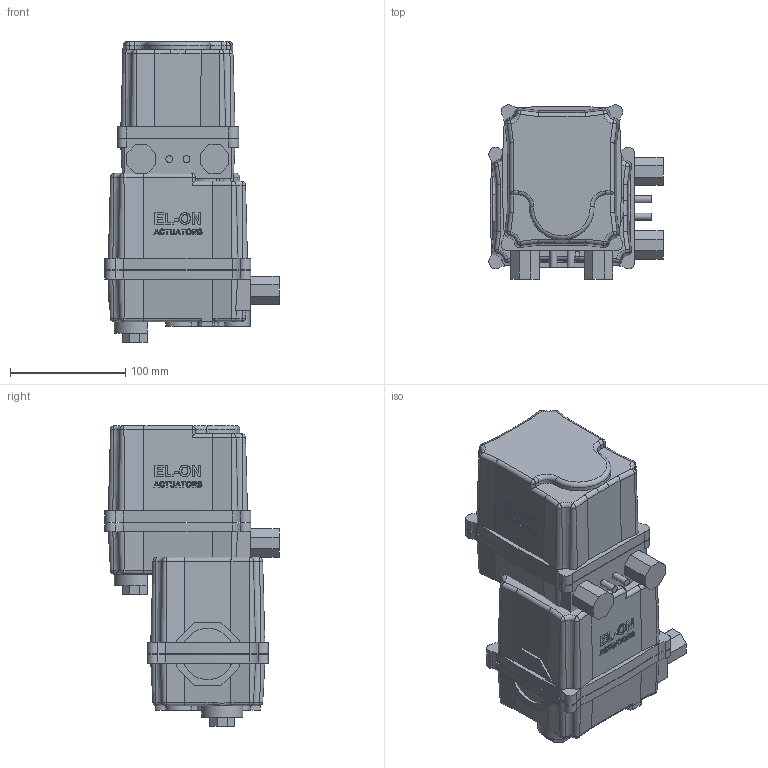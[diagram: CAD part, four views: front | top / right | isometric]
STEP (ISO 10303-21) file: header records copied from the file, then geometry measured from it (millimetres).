
FILE_DESCRIPTION( ( 'Unknown' ), '1' );
FILE_NAME( 'J:/Muud/ROOTSI BPS 3D vidinad/Kuulkraanid/Roostevaba kuulkraanid/Ball valve BPS 2420/Ball valve with electric actuator BPS/STEP formaat/BPS 2420040E ball valve DN40.stp', 'Unknown', ( 'Unknown' ), ( 'Unknown' ), 'PSStep 10.1', 'Unknown', ' ' );
FILE_SCHEMA( ( 'AUTOMOTIVE_DESIGN { 1 0 10303 214 1 1 1 1 }' ) );
Length unit declared in the file: millimetre
Products named in the file (4): Assem1; BPS 2420040 ball valve DN40; BPS 8005058 electric actuator DN40-100
Bounding box: 151.5 x 151.5 x 261.3 mm (x, y, z)
Volume: 3720548.2 mm3; surface area: 384695.1 mm2
Topology: 6 solids, 6 shells, 1314 faces, 3360 edges, 2190 vertices
Faces by surface type: plane 590, cylinder 316, extrusion 190, bspline 114, cone 82, torus 22
Full cylindrical faces by diameter (mm): 4.134 x16, 4.917 x8, 6 x4, 6.647 x8, 8 x24, 33 x2, 38 x2, 42 x2, 44.845 x4, 73 x2
Entity records: 34546 total; most frequent: CARTESIAN_POINT 14547, ORIENTED_EDGE 3136, DIRECTION 2556, EDGE_CURVE 1568, VERTEX_POINT 1072, VECTOR 880, AXIS2_PLACEMENT_3D 838, EDGE_LOOP 814
